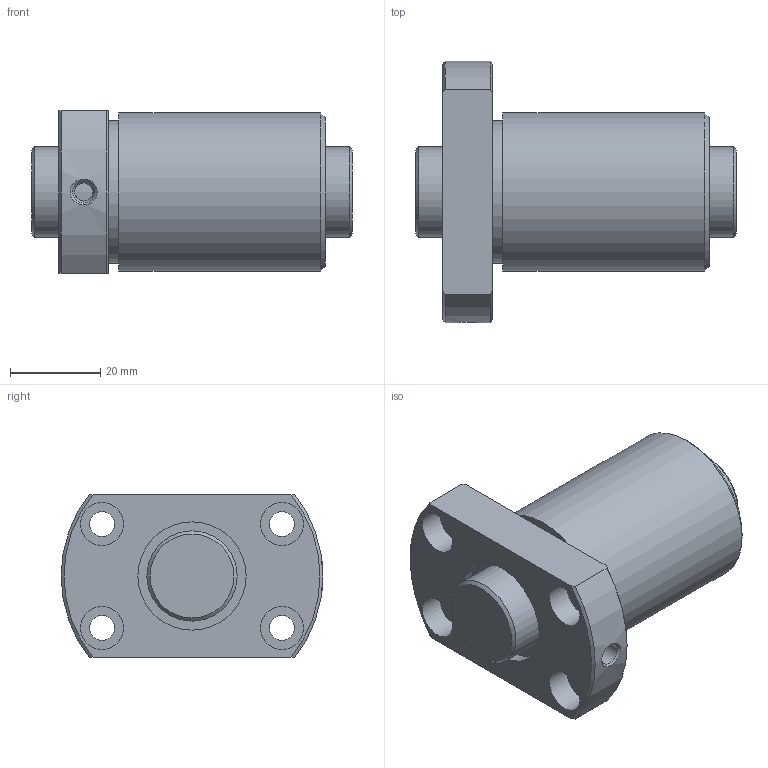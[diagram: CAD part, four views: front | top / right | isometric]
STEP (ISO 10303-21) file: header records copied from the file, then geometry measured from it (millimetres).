
FILE_DESCRIPTION(/* description */ ('STEP AP203'),/* implementation_level */ '2;1');
FILE_NAME(/* name */ 'DK2006-4RRG1+71LC0_000',/* time_stamp */ '2025-01-13T09:09:08+01:00',/* author */ ('License CC BY-ND 4.0'),/* organization */ ('CADENAS'),/* preprocessor_version */ 'ST-DEVELOPER v19.3',/* originating_system */ 'PARTsolutions',/* authorisation */ ' ');
FILE_SCHEMA (('CONFIG_CONTROL_DESIGN'));
Length unit declared in the file: millimetre
Products named in the file (3): DK2006-4RRG1+71LC0_000; DK 2006-4RR07100 Shaft; DK 2006-4RR0Nut
Assembly tree (2 placements, depth 2):
  DK2006-4RRG1+71LC0_000
    DK 2006-4RR07100 Shaft
    DK 2006-4RR0Nut
Bounding box: 71 x 58 x 36 mm (x, y, z)
Volume: 67733.7 mm3; surface area: 20494.5 mm2
Topology: 2 solids, 2 shells, 41 faces, 83 edges, 54 vertices
Faces by surface type: cylinder 18, plane 14, cone 9
Full cylindrical faces by diameter (mm): 4 x1, 4.917 x1, 5.5 x4, 9.5 x4, 20 x2, 24 x2, 31.5 x1, 35 x1
Entity records: 1087 total; most frequent: CARTESIAN_POINT 200, DIRECTION 180, ORIENTED_EDGE 120, AXIS2_PLACEMENT_3D 86, EDGE_LOOP 82, FACE_BOUND 82, EDGE_CURVE 60, VERTEX_POINT 52
